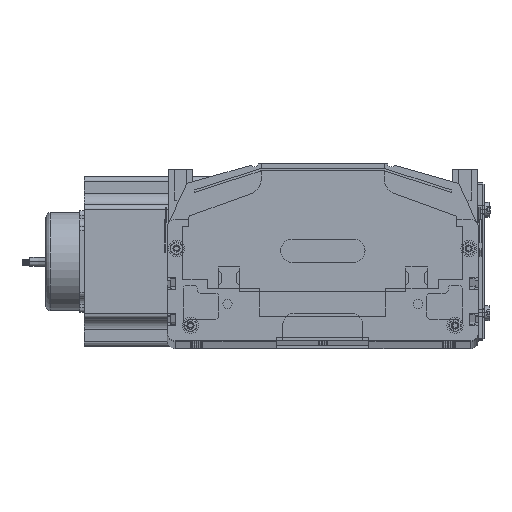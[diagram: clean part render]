
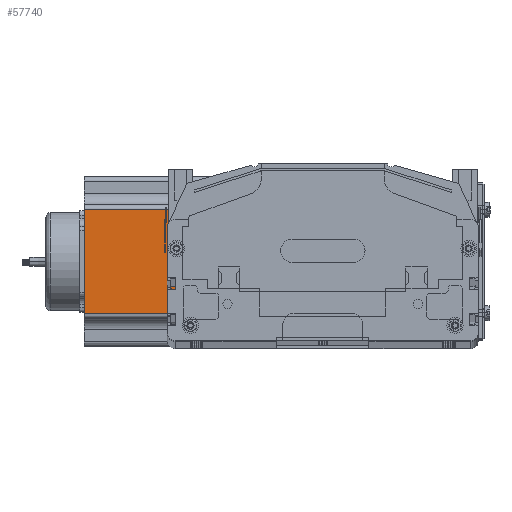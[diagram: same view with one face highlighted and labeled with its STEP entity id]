
A CAD part, top view. The second image highlights one B-rep face of the part: STEP entity #57740.
In plain terms, the highlighted planar face has unit normal (0, 0, 1) as drawn and (0, -1, 0) by its records, which use the part's own axes.
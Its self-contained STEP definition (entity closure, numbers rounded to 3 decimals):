
#57635 = VERTEX_POINT ( 'NONE', #66068 ) ;
#57637 = ORIENTED_EDGE ( 'NONE', *, *, #57728, .T. ) ;
#57727 = EDGE_CURVE ( 'NONE', #57635, #57744, #67407, .T. ) ;
#57728 = EDGE_CURVE ( 'NONE', #58629, #57635, #67278, .T. ) ;
#57740 = ADVANCED_FACE ( 'NONE', ( #66843 ), #66859, .F. ) ;
#57741 = EDGE_LOOP ( 'NONE', ( #57637, #57743, #57752, #57742 ) ) ;
#57742 = ORIENTED_EDGE ( 'NONE', *, *, #57753, .T. ) ;
#57743 = ORIENTED_EDGE ( 'NONE', *, *, #57727, .T. ) ;
#57744 = VERTEX_POINT ( 'NONE', #67326 ) ;
#57752 = ORIENTED_EDGE ( 'NONE', *, *, #58631, .F. ) ;
#57753 = EDGE_CURVE ( 'NONE', #58258, #58629, #67133, .T. ) ;
#58258 = VERTEX_POINT ( 'NONE', #71733 ) ;
#58629 = VERTEX_POINT ( 'NONE', #72649 ) ;
#58631 = EDGE_CURVE ( 'NONE', #58258, #57744, #72638, .T. ) ;
#66068 = CARTESIAN_POINT ( 'NONE',  ( 88.952, 0., 0. ) ) ;
#66825 = DIRECTION ( 'NONE',  ( 0., 0., 1. ) ) ;
#66828 = DIRECTION ( 'NONE',  ( 0., 1., 0. ) ) ;
#66830 = CARTESIAN_POINT ( 'NONE',  ( 0., 0., 160.5 ) ) ;
#66832 = AXIS2_PLACEMENT_3D ( 'NONE', #66830, #66828, #66825 ) ;
#66843 = FACE_OUTER_BOUND ( 'NONE', #57741, .T. ) ;
#66859 = PLANE ( 'NONE',  #66832 ) ;
#66865 = DIRECTION ( 'NONE',  ( 1., 0., 0. ) ) ;
#66867 = VECTOR ( 'NONE', #66865, 1000. ) ;
#66869 = CARTESIAN_POINT ( 'NONE',  ( 0., 0., 0. ) ) ;
#67126 = DIRECTION ( 'NONE',  ( 0., 0., -1. ) ) ;
#67127 = VECTOR ( 'NONE', #67126, 1000. ) ;
#67130 = CARTESIAN_POINT ( 'NONE',  ( 21.048, 0., 160.5 ) ) ;
#67133 = LINE ( 'NONE', #67130, #67127 ) ;
#67278 = LINE ( 'NONE', #66869, #66867 ) ;
#67281 = VECTOR ( 'NONE', #67303, 1000. ) ;
#67303 = DIRECTION ( 'NONE',  ( 0., 0., 1. ) ) ;
#67304 = CARTESIAN_POINT ( 'NONE',  ( 88.952, 0., 160.5 ) ) ;
#67326 = CARTESIAN_POINT ( 'NONE',  ( 88.952, 0., 160.5 ) ) ;
#67407 = LINE ( 'NONE', #67304, #67281 ) ;
#71733 = CARTESIAN_POINT ( 'NONE',  ( 21.048, 0., 160.5 ) ) ;
#72629 = DIRECTION ( 'NONE',  ( 1., 0., 0. ) ) ;
#72630 = VECTOR ( 'NONE', #72629, 1000. ) ;
#72632 = CARTESIAN_POINT ( 'NONE',  ( 0., 0., 160.5 ) ) ;
#72638 = LINE ( 'NONE', #72632, #72630 ) ;
#72649 = CARTESIAN_POINT ( 'NONE',  ( 21.048, 0., 0. ) ) ;
